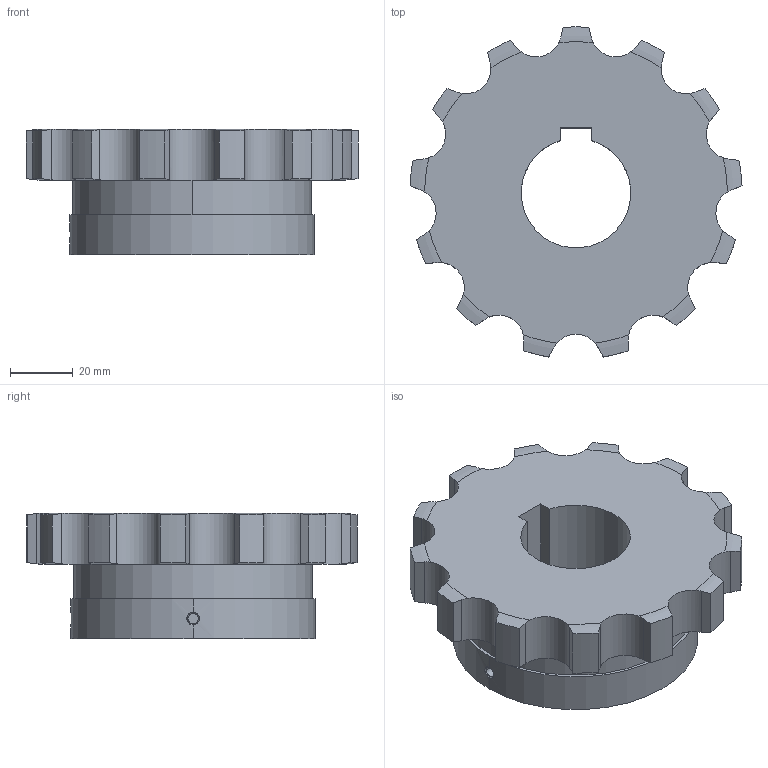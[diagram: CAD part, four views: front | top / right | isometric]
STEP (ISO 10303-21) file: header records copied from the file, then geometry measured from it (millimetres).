
FILE_DESCRIPTION((''),'2;1');
FILE_NAME('510-501-3513_PRT','2021-02-13T',('Brieden'),('Brieden'),'PRO/ENGINEER BY PARAMETRIC TECHNOLOGY CORPORATION, 2010160','PRO/ENGINEER BY PARAMETRIC TECHNOLOGY CORPORATION, 2010160','');
FILE_SCHEMA(('AUTOMOTIVE_DESIGN { 1 0 10303 214 1 1 1 1 }'));
Length unit declared in the file: millimetre
Products named in the file (1): 510-501-3513_PRT
Bounding box: 106.02 x 105.39 x 40 mm (x, y, z)
Volume: 193381.2 mm3; surface area: 31036.2 mm2
Topology: 1 solids, 1 shells, 102 faces, 285 edges, 188 vertices
Faces by surface type: cylinder 61, torus 26, plane 9, bspline 6
Entity records: 4942 total; most frequent: CARTESIAN_POINT 1548, ORIENTED_EDGE 570, DIRECTION 453, PRESENTATION_STYLE_ASSIGNMENT 286, STYLED_ITEM 286, CURVE_STYLE 285, EDGE_CURVE 285, AXIS2_PLACEMENT_3D 188
